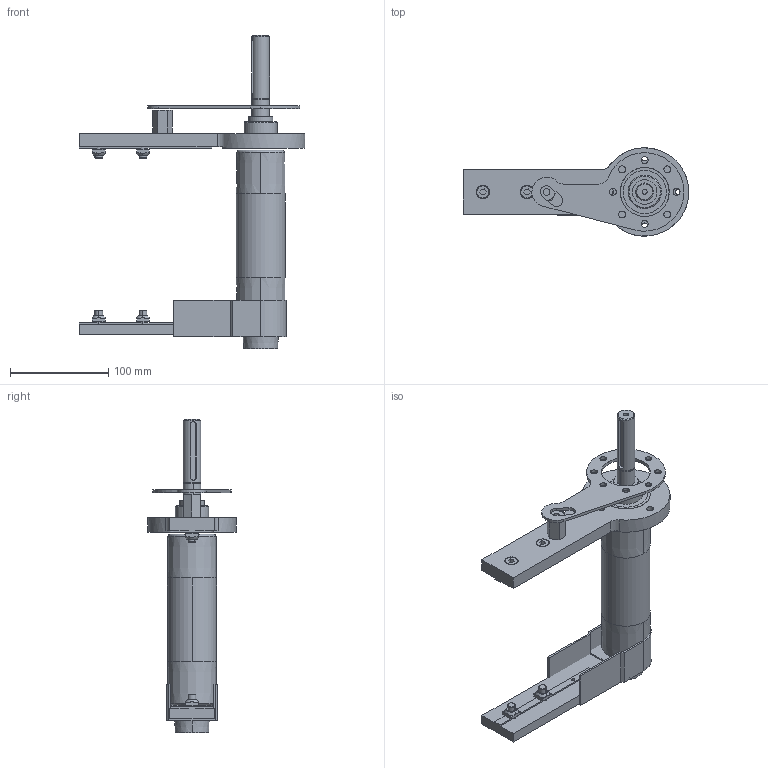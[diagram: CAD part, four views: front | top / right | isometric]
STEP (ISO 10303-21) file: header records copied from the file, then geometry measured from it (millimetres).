
FILE_DESCRIPTION (( 'STEP AP203' ), '1' );
FILE_NAME ('084.050.KD.44.150.STEP', '2015-07-03T14:12:57', ( '' ), ( '' ), 'SwSTEP 2.0', 'SolidWorks 2012', '' );
FILE_SCHEMA (( 'CONFIG_CONTROL_DESIGN' ));
Length unit declared in the file: millimetre
Products named in the file (1): 084.050.KD.44.150
Bounding box: 230 x 90 x 319 mm (x, y, z)
Surface area: 137313 mm2 (no closed solid volume)
Topology: 0 solids, 25 shells, 288 faces, 849 edges, 577 vertices
Faces by surface type: plane 146, cylinder 96, cone 24, torus 20, sphere 2
Entity records: 10126 total; most frequent: CARTESIAN_POINT 2217, DIRECTION 1723, ORIENTED_EDGE 1458, EDGE_CURVE 844, AXIS2_PLACEMENT_3D 640, VERTEX_POINT 574, VECTOR 443, LINE 443
